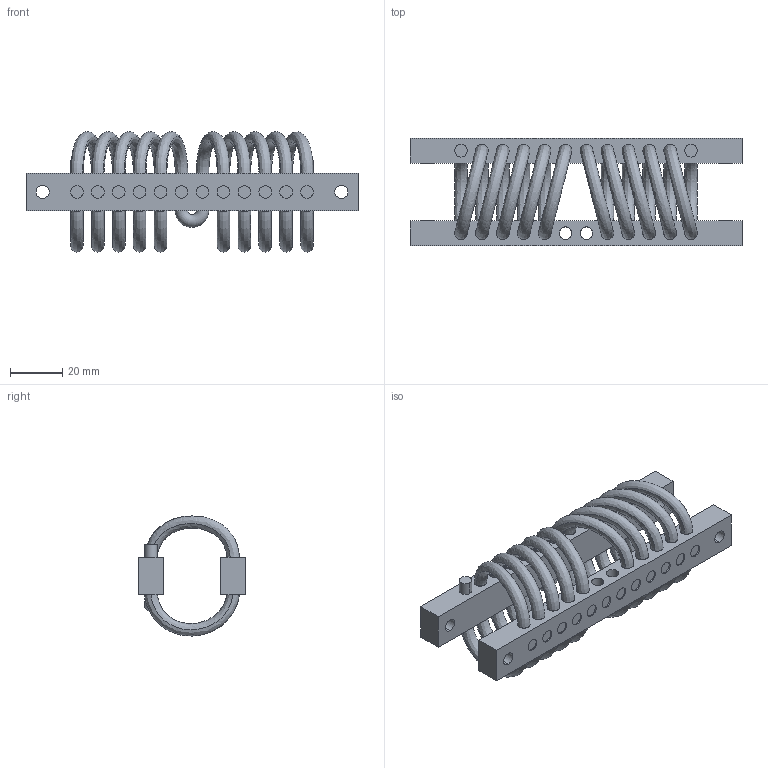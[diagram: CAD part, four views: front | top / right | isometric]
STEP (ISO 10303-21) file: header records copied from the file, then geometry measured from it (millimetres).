
FILE_DESCRIPTION (( 'STEP AP214' ), '1' );
FILE_NAME ('WR6-600-10DM.STEP', '2018-12-07T09:54:56', ( 'user' ), ( 'Microsoft' ), 'SwSTEP 2.0', 'SolidWorks 2016', '' );
FILE_SCHEMA (( 'AUTOMOTIVE_DESIGN' ));
Length unit declared in the file: millimetre
Products named in the file (1): WR6-600-10DM
Bounding box: 127 x 41 x 45.93 mm (x, y, z)
Volume: 50103.8 mm3; surface area: 37369.9 mm2
Topology: 25 solids, 25 shells, 316 faces, 702 edges, 460 vertices
Faces by surface type: cylinder 192, plane 82, bspline 40, torus 2
Entity records: 23310 total; most frequent: CARTESIAN_POINT 16039, ORIENTED_EDGE 1404, DIRECTION 1382, EDGE_CURVE 702, AXIS2_PLACEMENT_3D 583, VERTEX_POINT 460, EDGE_LOOP 396, FACE_OUTER_BOUND 316
